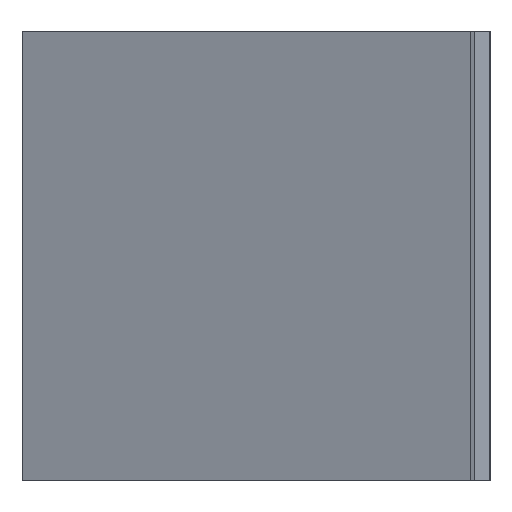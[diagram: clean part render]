
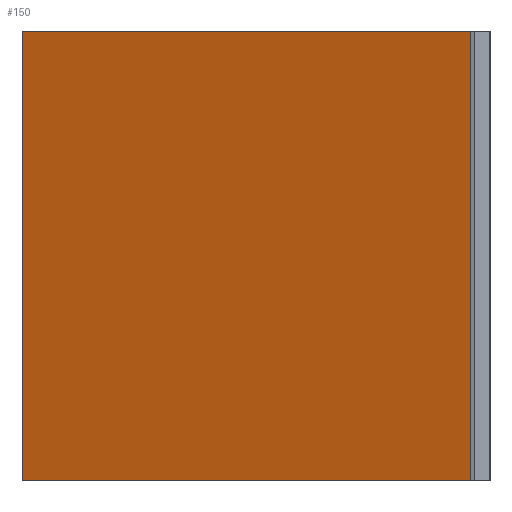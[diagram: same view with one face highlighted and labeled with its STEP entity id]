
A CAD part, left-side view. The second image highlights one B-rep face of the part: STEP entity #150.
In plain terms, the highlighted planar face has unit normal (0.935, -0.355, 0).
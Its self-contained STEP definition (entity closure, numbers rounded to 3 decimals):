
#98=CARTESIAN_POINT('Vertex',(20.,0.,0.)) ;
#101=CARTESIAN_POINT('Line Origine',(20.,0.,58.)) ;
#105=CARTESIAN_POINT('Vertex',(20.,0.,116.)) ;
#120=CARTESIAN_POINT('Axis2P3D Location',(20.,0.,0.)) ;
#125=CARTESIAN_POINT('Line Origine',(42.,58.,0.)) ;
#129=CARTESIAN_POINT('Vertex',(64.,116.,0.)) ;
#132=CARTESIAN_POINT('Line Origine',(64.,116.,58.)) ;
#136=CARTESIAN_POINT('Vertex',(64.,116.,116.)) ;
#139=CARTESIAN_POINT('Line Origine',(42.,58.,116.)) ;
#102=DIRECTION('Vector Direction',(0.,0.,1.)) ;
#121=DIRECTION('Axis2P3D Direction',(0.935,-0.355,0.)) ;
#122=DIRECTION('Axis2P3D XDirection',(0.355,0.935,0.)) ;
#126=DIRECTION('Vector Direction',(0.355,0.935,0.)) ;
#133=DIRECTION('Vector Direction',(0.,0.,1.)) ;
#140=DIRECTION('Vector Direction',(0.355,0.935,0.)) ;
#123=AXIS2_PLACEMENT_3D('Plane Axis2P3D',#120,#121,#122) ;
#145=ORIENTED_EDGE('',*,*,#107,.F.) ;
#146=ORIENTED_EDGE('',*,*,#131,.T.) ;
#147=ORIENTED_EDGE('',*,*,#138,.T.) ;
#148=ORIENTED_EDGE('',*,*,#143,.F.) ;
#103=VECTOR('Line Direction',#102,1.) ;
#127=VECTOR('Line Direction',#126,1.) ;
#134=VECTOR('Line Direction',#133,1.) ;
#141=VECTOR('Line Direction',#140,1.) ;
#150=ADVANCED_FACE('Extrude.1',(#149),#124,.T.) ;
#107=EDGE_CURVE('',#99,#106,#104,.T.) ;
#131=EDGE_CURVE('',#99,#130,#128,.T.) ;
#138=EDGE_CURVE('',#130,#137,#135,.T.) ;
#143=EDGE_CURVE('',#106,#137,#142,.T.) ;
#144=EDGE_LOOP('',(#145,#146,#147,#148)) ;
#149=FACE_OUTER_BOUND('',#144,.T.) ;
#104=LINE('Line',#101,#103) ;
#128=LINE('Line',#125,#127) ;
#135=LINE('Line',#132,#134) ;
#142=LINE('Line',#139,#141) ;
#124=PLANE('',#123) ;
#99=VERTEX_POINT('',#98) ;
#106=VERTEX_POINT('',#105) ;
#130=VERTEX_POINT('',#129) ;
#137=VERTEX_POINT('',#136) ;
